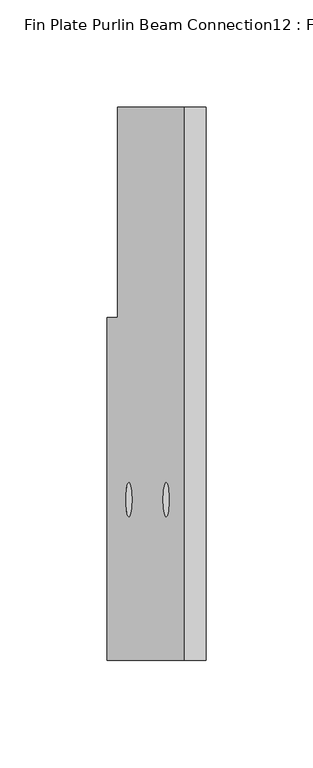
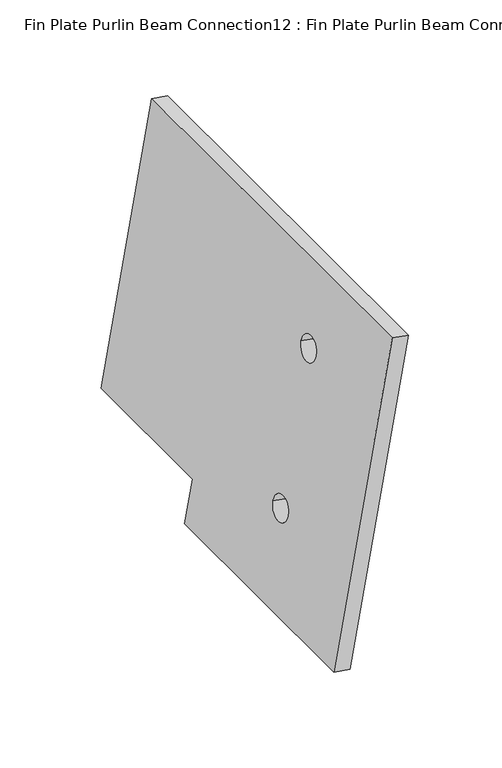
"""IFC4 building model written with IfcOpenShell, lengths in millimetres: proxy geometry, Fin Plate Purlin Beam Connection12 : Fin Plate Purlin Beam Connection."""

from ifc_helpers import new_model, si_unit, point, frame, frame_2d, origin, place, context, project, spatial, polyline, circle_curve, trimmed, segment, composite_curve, outline, extrude, source, transform, mapped, element, save


def fin_plate_purlin_beam_connection12_fin_plate_purlin_beam_61acc9f2(model_context):
    return source(origin(), model_context, "Body", "SweptSolid", [
        extrude(outline(polyline([(0.0, 0.0), (0.0, -181.2383863), (-258.2, -181.2383863), (-258.2, 27.7176621), (-98.2, 27.7176621), (-98.2, 0.0), (0.0, 0.0)]), holes=[composite_curve([segment(trimmed(circle_curve(frame_2d((-183.2, -131.2383864)), 8.0), [point((-175.2, -131.2383864))], [point((-191.2, -131.2383864))], True, "CARTESIAN"), True, "CONTINUOUS"), segment(trimmed(circle_curve(frame_2d((-183.2, -131.2383864)), 8.0), [point((-191.2, -131.2383864))], [point((-175.2, -131.2383864))], True, "CARTESIAN"), True, "CONTINUOUS")], self_intersect=False), composite_curve([segment(trimmed(circle_curve(frame_2d((-183.2, -31.2383863)), 8.0), [point((-175.2, -31.2383863))], [point((-191.2, -31.2383863))], True, "CARTESIAN"), True, "CONTINUOUS"), segment(trimmed(circle_curve(frame_2d((-183.2, -31.2383863)), 8.0), [point((-191.2, -31.2383863))], [point((-175.2, -31.2383863))], True, "CARTESIAN"), True, "CONTINUOUS")], self_intersect=False)]), frame((-33949.1044256, 15850.8229293, 3629.9054454), z_axis=(-0.9848077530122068, 0.0, 0.17364817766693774), x_axis=(0.0, 1.0, 0.0)), (0.0, 0.0, 1.0), 10.0),
    ])


if __name__ == "__main__":
    model = new_model("IFC4")
    model_context = context("Model", 3, world=origin())
    ifc_project = project(units=[si_unit("LENGTHUNIT", "METRE", prefix="MILLI")], contexts=[model_context])
    site = spatial("IfcSite", under=ifc_project)
    building = spatial("IfcBuilding", under=site)
    placement = place(None, origin())
    fin_plate_purlin_beam_connection12_fin_plate_purlin_beam_shape = fin_plate_purlin_beam_connection12_fin_plate_purlin_beam_61acc9f2(model_context)
    element("IfcBuildingElementProxy", 1, Name="Fin Plate Purlin Beam Connection12 : Fin Plate Purlin Beam Connection", ObjectType="Fin Plate Purlin Beam Connection12 : Fin Plate Purlin Beam Connection", at=placement, inside=building, context=model_context, shape_type="MappedRepresentation", body=[
        mapped(fin_plate_purlin_beam_connection12_fin_plate_purlin_beam_shape, transform((0.0, 0.0, 0.0), x_axis=(1.0, 0.0, 0.0), y_axis=(0.0, 1.0, 0.0), z_axis=(0.0, 0.0, 1.0))),
    ])
    save(model, "model.ifc")
